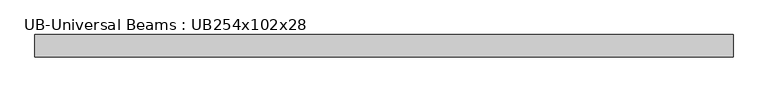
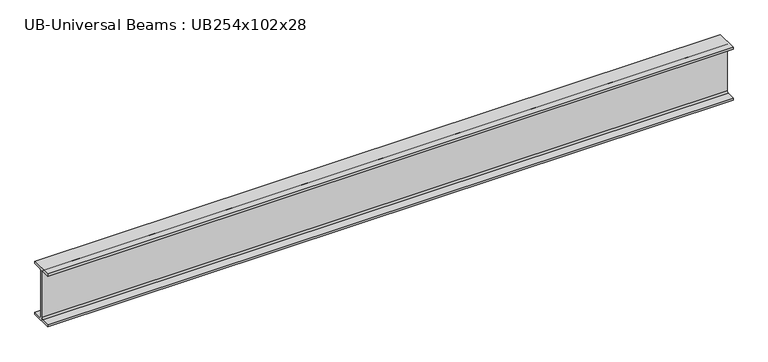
"""IFC4 building model written with IfcOpenShell, lengths in millimetres: beam geometry, UB-Universal Beams : UB254x102x28."""

from ifc_helpers import new_model, si_unit, point, frame, frame_2d, origin, place, context, project, spatial, polyline, circle_curve, trimmed, segment, composite_curve, outline, extrude, source, transform, mapped, element, save


def ub_universal_beams_ub254x102x28_4a38c177(model_context):
    return source(origin(), model_context, "Body", "SweptSolid", [
        extrude(outline(composite_curve([segment(polyline([(51.1, -120.2), (51.1, -130.2), (-51.1, -130.2), (-51.1, -120.2), (-10.75, -120.2)]), True, "CONTINUOUS"), segment(trimmed(circle_curve(frame_2d((-10.75, -112.6)), 7.6), [point((-10.75, -120.2))], [point((-3.15, -112.6))], True, "CARTESIAN"), True, "CONTINUOUS"), segment(polyline([(-3.15, -112.6), (-3.15, 112.6)]), True, "CONTINUOUS"), segment(trimmed(circle_curve(frame_2d((-10.75, 112.6)), 7.6), [point((-3.15, 112.6))], [point((-10.75, 120.2))], True, "CARTESIAN"), True, "CONTINUOUS"), segment(polyline([(-10.75, 120.2), (-51.1, 120.2), (-51.1, 130.2), (51.1, 130.2), (51.1, 120.2), (10.75, 120.2)]), True, "CONTINUOUS"), segment(trimmed(circle_curve(frame_2d((10.75, 112.6)), 7.6), [point((10.75, 120.2))], [point((3.15, 112.6))], True, "CARTESIAN"), True, "CONTINUOUS"), segment(polyline([(3.15, 112.6), (3.15, -112.6)]), True, "CONTINUOUS"), segment(trimmed(circle_curve(frame_2d((10.75, -112.6)), 7.6), [point((3.15, -112.6))], [point((10.75, -120.2))], True, "CARTESIAN"), True, "CONTINUOUS"), segment(polyline([(10.75, -120.2), (51.1, -120.2)]), True, "CONTINUOUS")], self_intersect=False)), frame((-1603.65, 0.0, 0.0), z_axis=(1.0, 0.0, 0.0), x_axis=(0.0, 1.0, 0.0)), (0.0, 0.0, 1.0), 3202.7),
    ])


if __name__ == "__main__":
    model = new_model("IFC4")
    model_context = context("Model", 3, world=origin())
    ifc_project = project(units=[si_unit("LENGTHUNIT", "METRE", prefix="MILLI")], contexts=[model_context])
    site = spatial("IfcSite", under=ifc_project)
    building = spatial("IfcBuilding", under=site)
    placement = place(None, origin())
    ub_universal_beams_ub254x102x28_shape = ub_universal_beams_ub254x102x28_4a38c177(model_context)
    element("IfcBeam", 1, ObjectType="UB-Universal Beams : UB254x102x28", at=placement, inside=building, context=model_context, shape_type="MappedRepresentation", body=[
        mapped(ub_universal_beams_ub254x102x28_shape, transform((0.0, 0.0, 0.0), x_axis=(1.0, 0.0, 0.0), y_axis=(0.0, 1.0, 0.0), z_axis=(0.0, 0.0, 1.0))),
    ])
    save(model, "model.ifc")
